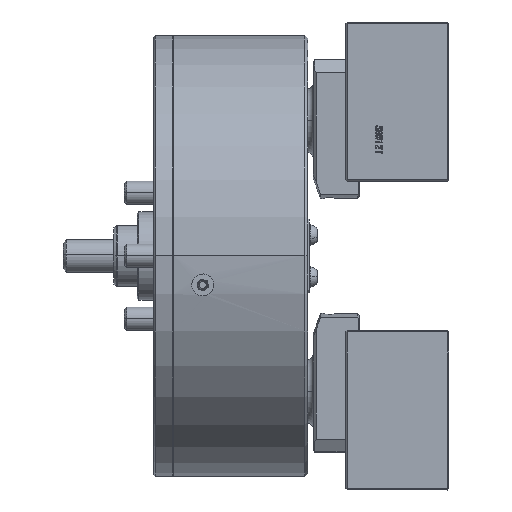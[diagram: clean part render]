
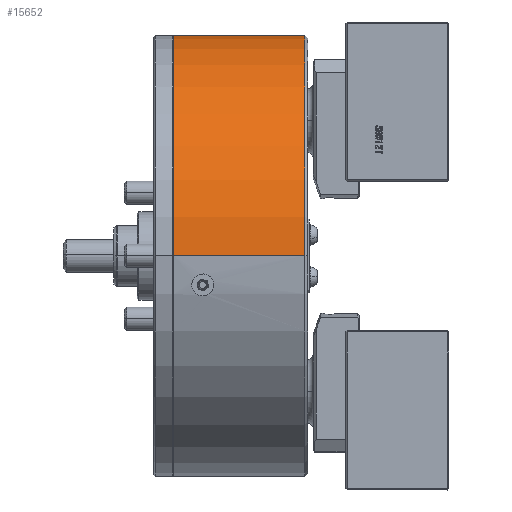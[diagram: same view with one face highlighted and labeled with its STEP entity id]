
A CAD part, top view. The second image highlights one B-rep face of the part: STEP entity #15652.
In plain terms, the highlighted cylindrical face has radius 150 mm (diameter 300 mm), a partial arc.
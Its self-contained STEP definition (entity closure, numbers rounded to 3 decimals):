
#935 = AXIS2_PLACEMENT_3D ( 'NONE', #35211, #12685, #34045 ) ;
#6745 = VERTEX_POINT ( 'NONE', #38736 ) ;
#7405 = VERTEX_POINT ( 'NONE', #44905 ) ;
#7596 = DIRECTION ( 'NONE',  ( 1., 0., 0. ) ) ;
#8786 = ORIENTED_EDGE ( 'NONE', *, *, #30245, .T. ) ;
#9086 = LINE ( 'NONE', #18949, #11461 ) ;
#9288 = EDGE_CURVE ( 'NONE', #6745, #13933, #17678, .T. ) ;
#10157 = LINE ( 'NONE', #13682, #38971 ) ;
#10584 = DIRECTION ( 'NONE',  ( 1., 0., 0. ) ) ;
#11461 = VECTOR ( 'NONE', #7596, 1000. ) ;
#12685 = DIRECTION ( 'NONE',  ( 1., 0., 0. ) ) ;
#13315 = EDGE_CURVE ( 'NONE', #28942, #7405, #27932, .T. ) ;
#13682 = CARTESIAN_POINT ( 'NONE',  ( 9.899, 0., 150. ) ) ;
#13933 = VERTEX_POINT ( 'NONE', #21792 ) ;
#15652 = ADVANCED_FACE ( 'NONE', ( #18453 ), #37282, .T. ) ;
#17467 = DIRECTION ( 'NONE',  ( 1., 0., 0. ) ) ;
#17678 = CIRCLE ( 'NONE', #935, 150. ) ;
#18453 = FACE_OUTER_BOUND ( 'NONE', #19295, .T. ) ;
#18949 = CARTESIAN_POINT ( 'NONE',  ( 9.899, 0., -150. ) ) ;
#19295 = EDGE_LOOP ( 'NONE', ( #32563, #8786, #34695, #41954 ) ) ;
#20261 = AXIS2_PLACEMENT_3D ( 'NONE', #24314, #47084, #35768 ) ;
#21740 = DIRECTION ( 'NONE',  ( 0., 0., -1. ) ) ;
#21792 = CARTESIAN_POINT ( 'NONE',  ( -2., 0., 150. ) ) ;
#23765 = AXIS2_PLACEMENT_3D ( 'NONE', #48101, #10584, #21740 ) ;
#24314 = CARTESIAN_POINT ( 'NONE',  ( -91.2, 0., 0. ) ) ;
#27932 = CIRCLE ( 'NONE', #20261, 150. ) ;
#28578 = EDGE_CURVE ( 'NONE', #28942, #6745, #9086, .T. ) ;
#28942 = VERTEX_POINT ( 'NONE', #32659 ) ;
#30245 = EDGE_CURVE ( 'NONE', #7405, #13933, #10157, .T. ) ;
#32563 = ORIENTED_EDGE ( 'NONE', *, *, #13315, .T. ) ;
#32659 = CARTESIAN_POINT ( 'NONE',  ( -91.2, 0., -150. ) ) ;
#34045 = DIRECTION ( 'NONE',  ( 0., 0., -1. ) ) ;
#34695 = ORIENTED_EDGE ( 'NONE', *, *, #9288, .F. ) ;
#35211 = CARTESIAN_POINT ( 'NONE',  ( -2., 0., 0. ) ) ;
#35768 = DIRECTION ( 'NONE',  ( 0., 0., -1. ) ) ;
#37282 = CYLINDRICAL_SURFACE ( 'NONE', #23765, 150. ) ;
#38736 = CARTESIAN_POINT ( 'NONE',  ( -2., 0., -150. ) ) ;
#38971 = VECTOR ( 'NONE', #17467, 1000. ) ;
#41954 = ORIENTED_EDGE ( 'NONE', *, *, #28578, .F. ) ;
#44905 = CARTESIAN_POINT ( 'NONE',  ( -91.2, 0., 150. ) ) ;
#47084 = DIRECTION ( 'NONE',  ( 1., 0., 0. ) ) ;
#48101 = CARTESIAN_POINT ( 'NONE',  ( 9.899, 0., 0. ) ) ;
